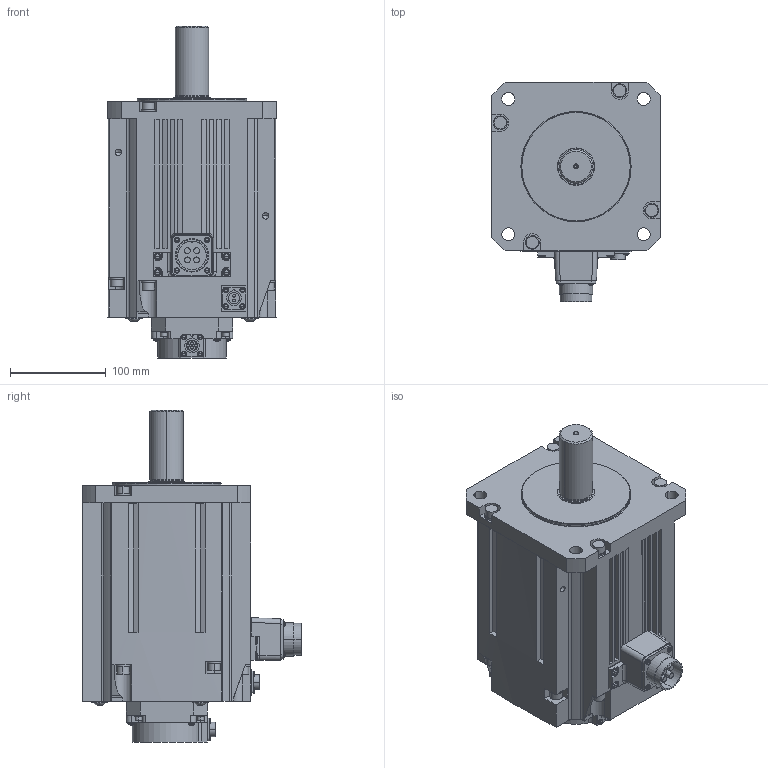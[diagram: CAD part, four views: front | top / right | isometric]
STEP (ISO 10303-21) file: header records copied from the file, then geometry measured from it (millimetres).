
FILE_DESCRIPTION((''),'2;1');
FILE_NAME('HK-ST702WB','2020-03-10T',('BA00863'),(''),'CREO PARAMETRIC BY PTC INC, 2017480','CREO PARAMETRIC BY PTC INC, 2017480','');
FILE_SCHEMA(('CONFIG_CONTROL_DESIGN'));
Length unit declared in the file: millimetre
Products named in the file (1): HK-ST702WB
Bounding box: 176 x 228.8 x 347 mm (x, y, z)
Volume: 6506079.1 mm3; surface area: 283579.9 mm2
Topology: 1 solids, 1 shells, 681 faces, 1654 edges, 1037 vertices
Faces by surface type: plane 306, cylinder 259, sphere 46, torus 44, cone 24, bspline 2
Entity records: 20218 total; most frequent: CARTESIAN_POINT 3852, DIRECTION 3642, ORIENTED_EDGE 3208, EDGE_CURVE 1604, AXIS2_PLACEMENT_3D 1379, VERTEX_POINT 1037, VECTOR 884, LINE 884
